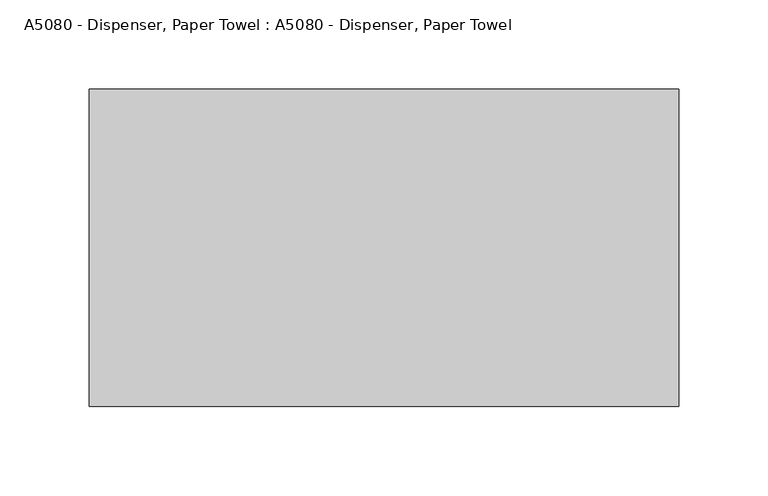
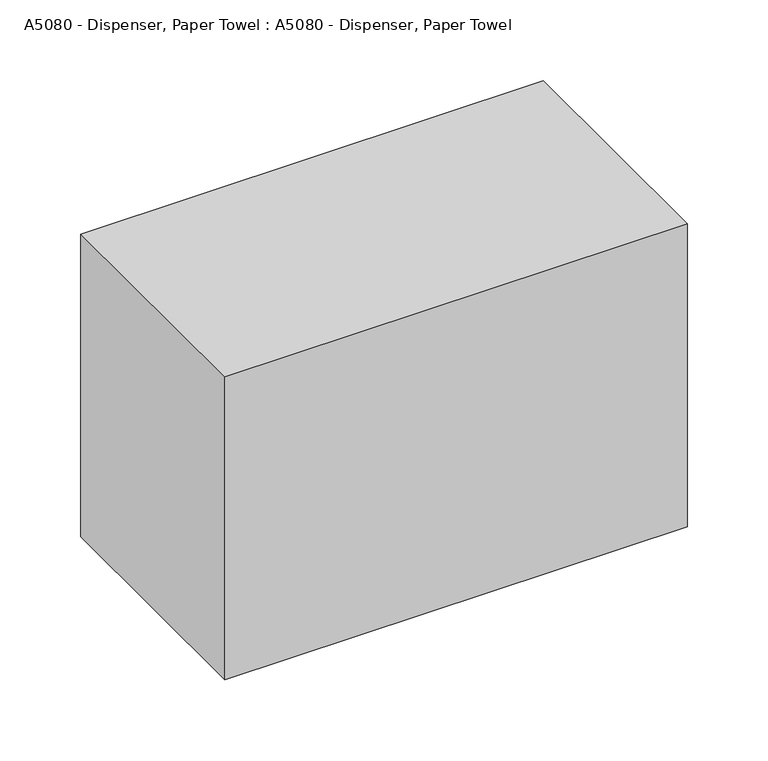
"""IFC4 building model written with IfcOpenShell, lengths in millimetres: proxy geometry, A5080 - Dispenser, Paper Towel : A5080 - Dispenser, Paper Towel."""

from ifc_helpers import new_model, si_unit, origin, origin_with_axes, place, context, project, spatial, polyline, outline, extrude, source, transform, mapped, element, save


def a5080_dispenser_paper_towel_a5080_dispenser_paper_towel_1e08ff74(model_context):
    return source(origin(), model_context, "Body", "SweptSolid", [
        extrude(outline(polyline([(165.1, 177.8), (165.1, 0.0), (-165.1, 0.0), (-165.1, 177.8), (165.1, 177.8)])), origin_with_axes(), (0.0, 0.0, 1.0), 228.6),
    ])


if __name__ == "__main__":
    model = new_model("IFC4")
    model_context = context("Model", 3, world=origin())
    ifc_project = project(units=[si_unit("LENGTHUNIT", "METRE", prefix="MILLI")], contexts=[model_context])
    site = spatial("IfcSite", under=ifc_project)
    building = spatial("IfcBuilding", under=site)
    placement = place(None, origin())
    a5080_dispenser_paper_towel_a5080_dispenser_paper_towel_shape = a5080_dispenser_paper_towel_a5080_dispenser_paper_towel_1e08ff74(model_context)
    element("IfcBuildingElementProxy", 1, Name="A5080 - Dispenser, Paper Towel : A5080 - Dispenser, Paper Towel", ObjectType="A5080 - Dispenser, Paper Towel : A5080 - Dispenser, Paper Towel", at=placement, inside=building, context=model_context, shape_type="MappedRepresentation", body=[
        mapped(a5080_dispenser_paper_towel_a5080_dispenser_paper_towel_shape, transform((0.0, 0.0, 0.0), x_axis=(1.0, 0.0, 0.0), y_axis=(0.0, 1.0, 0.0), z_axis=(0.0, 0.0, 1.0))),
    ])
    save(model, "model.ifc")
